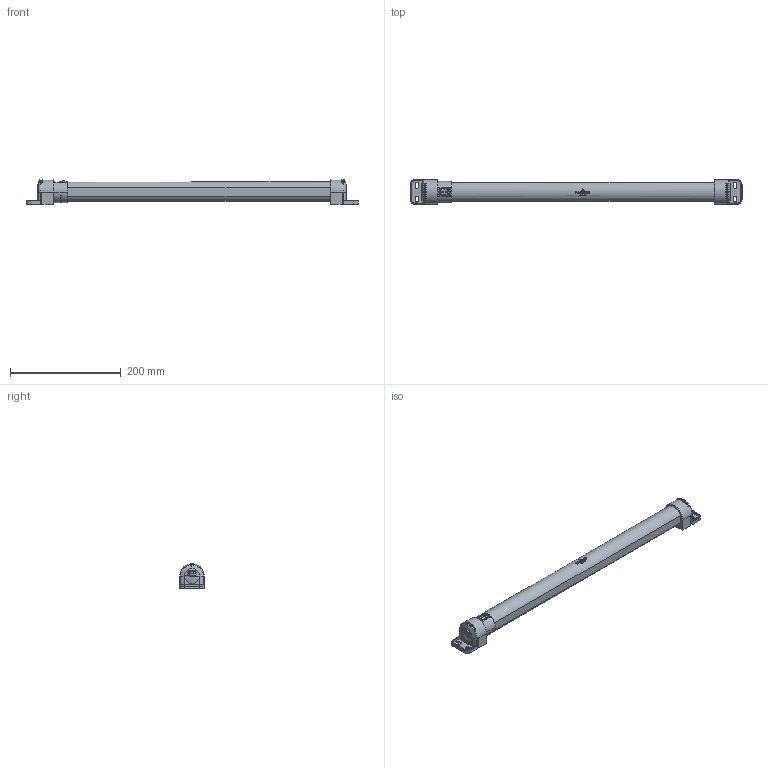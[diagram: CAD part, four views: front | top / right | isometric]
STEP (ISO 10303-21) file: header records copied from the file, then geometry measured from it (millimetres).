
FILE_DESCRIPTION (( 'STEP AP214' ), '1' );
FILE_NAME ('02200.0-00_EPLAN_LED022_600mm_Schraubbef~0.STEP', '2022-08-24T13:13:23', ( '' ), ( '' ), 'SwSTEP 2.0', 'SolidWorks 2022', '' );
FILE_SCHEMA (( 'AUTOMOTIVE_DESIGN' ));
Length unit declared in the file: millimetre
Products named in the file (1): 02200.0-00_EPLAN_LED022_600mm_Schraubbef~0
Bounding box: 600 x 44 x 44 mm (x, y, z)
Volume: 628340.3 mm3; surface area: 78704.4 mm2
Topology: 1 solids, 1 shells, 587 faces, 1559 edges, 986 vertices
Faces by surface type: plane 253, cylinder 212, bspline 64, torus 28, sphere 21, cone 9
Entity records: 22173 total; most frequent: CARTESIAN_POINT 6794, ORIENTED_EDGE 3092, DIRECTION 2711, EDGE_CURVE 1546, AXIS2_PLACEMENT_3D 992, VERTEX_POINT 982, LINE 727, VECTOR 727
